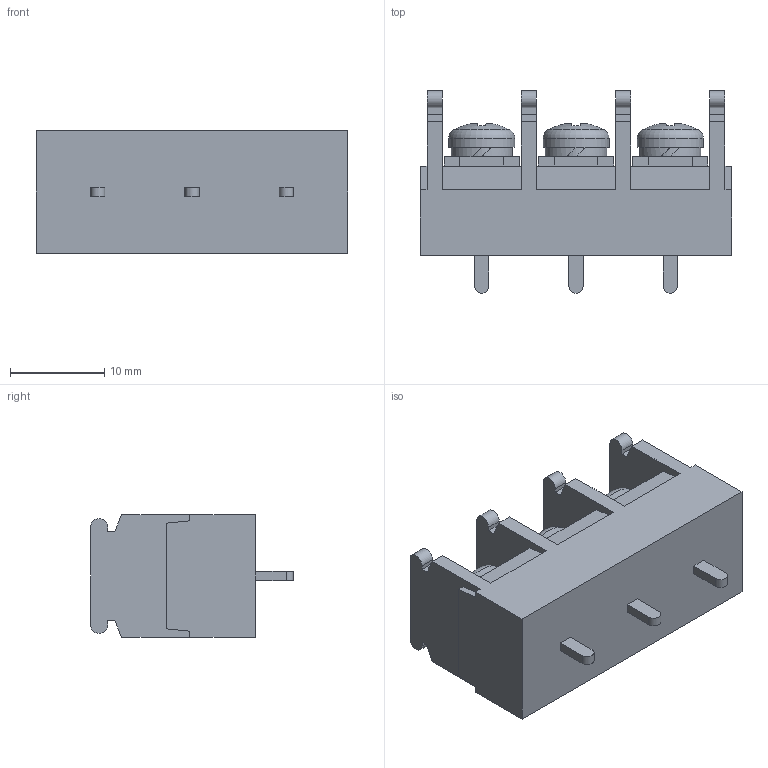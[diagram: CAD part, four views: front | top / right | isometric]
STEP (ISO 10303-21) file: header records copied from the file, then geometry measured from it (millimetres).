
FILE_DESCRIPTION(/* description */ ('Alibre Inc.'),/* implementation_level */ '2;1');
FILE_NAME(/* name */ 'export0',/* time_stamp */ '2015-10-17T19:39:35+09:00',/* author */ (''),/* organization */ (''),/* preprocessor_version */ 'ST-DEVELOPER v14',/* originating_system */ 'Alibre',/* authorisation */ '');
FILE_SCHEMA (('CONFIG_CONTROL_DESIGN'));
Length unit declared in the file: centimetre
Products named in the file (1): ID_1
Bounding box: 33 x 21.5 x 13 mm (x, y, z)
Volume: 5110.3 mm3; surface area: 3107.3 mm2
Topology: 1 solids, 17 shells, 581 faces, 1533 edges, 1021 vertices
Faces by surface type: plane 439, bspline 104, cylinder 20, cone 12, sphere 3, torus 3
Full cylindrical faces by diameter (mm): 6.5 x3, 7 x3
Entity records: 17503 total; most frequent: CARTESIAN_POINT 4154, ORIENTED_EDGE 3054, DIRECTION 1928, EDGE_CURVE 1527, VECTOR 1180, LINE 1180, VERTEX_POINT 1021, EDGE_LOOP 630
